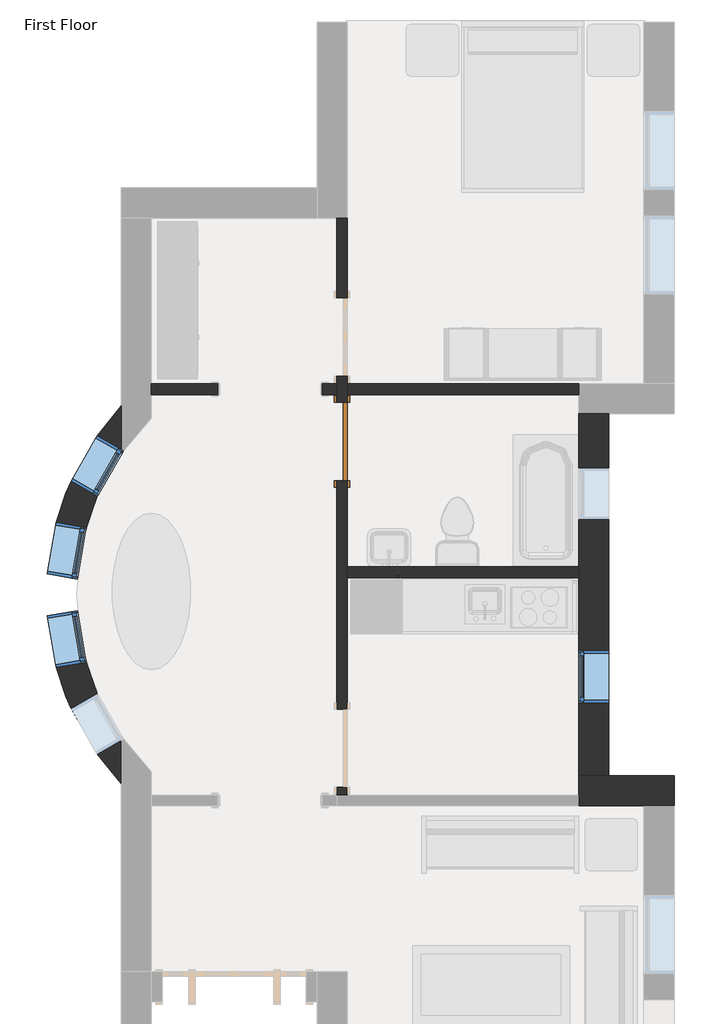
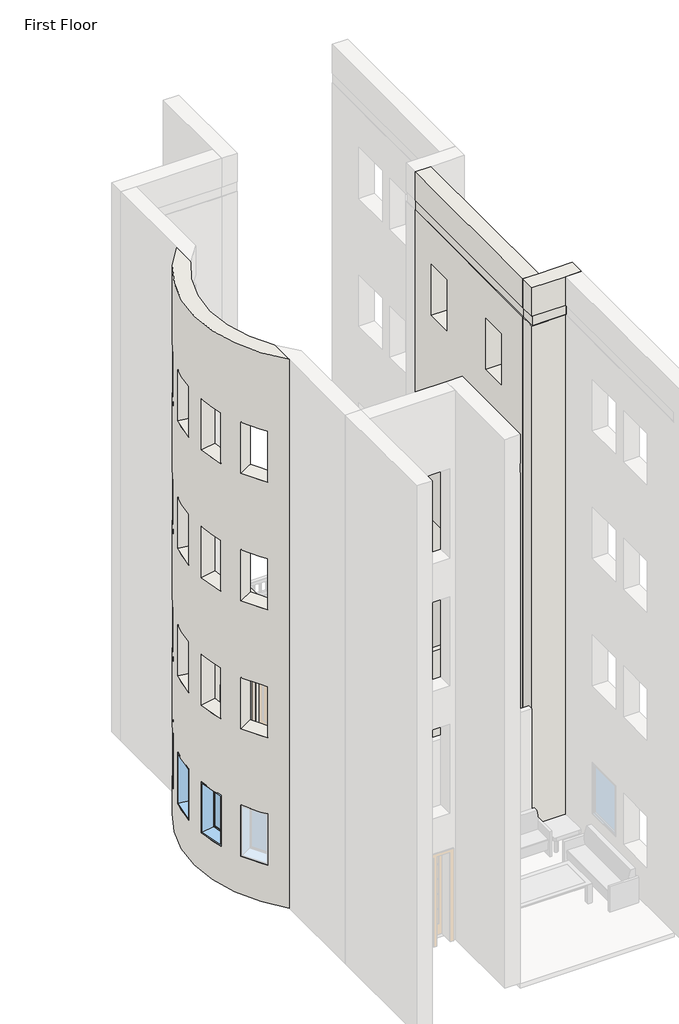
# One storey, part 7 of 24: 7 walls, 4 windows, 1 door.
"""IFC4 building model written with IfcOpenShell, lengths in millimetres."""

from ifc_helpers import new_model, si_unit, frame, origin, origin_with_axes, place, context, project, spatial, polyline, circle_curve, outline, extrude, faceted_brep, transform, mapped, element, save
from ifc_brep_helpers import plane_surface, cylinder_surface, revolved_surface, advanced_brep
from components import door_a3eb833a, window_60baf983, window_ed80354a

model = new_model("IFC4")

# Units and contexts
model_context = context("Model", 3, world=origin())
ifc_project = project(units=[si_unit("LENGTHUNIT", "METRE", prefix="MILLI")], contexts=[model_context])

# Site, building, storey
site = spatial("IfcSite", under=ifc_project)
building = spatial("IfcBuilding", under=site)
storey = spatial("IfcBuildingStorey", under=building, Name="First Floor", Elevation=0.0)

# Door
placement = place(None, origin())
door_shape = door_a3eb833a(model_context)
element("IfcDoor", 1, ObjectType="Single-Flush : 36\" x 84\"", at=placement, inside=storey, context=model_context, shape_type="MappedRepresentation", body=[
    mapped(door_shape, transform((-3773.4589563, -16873.0558133, 0.0), x_axis=(0.0, 1.0, 0.0), y_axis=(-1.0, 0.0, 0.0), z_axis=(0.0, 0.0, 1.0))),
])

# Walls
element("IfcWall", 2, ObjectType="Exterior - Brick on Mtl. Stud", at=placement, inside=storey, context=model_context, shape_type="Brep", body=[
    faceted_brep([(-1014.3839563, -16552.3808133, 0.0), (-1014.3839563, -18333.5558133, 0.0), (-1014.3839563, -18460.5558133, 0.0), (-1014.3839563, -20771.9558133, 0.0), (-1014.3839563, -20771.9558133, 12192.0), (-1014.3839563, -18460.5558133, 12192.0), (-1014.3839563, -18333.5558133, 12192.0), (-1014.3839563, -16552.3808133, 12192.0), (-1014.3839563, -17177.8558133, 7010.4), (-1014.3839563, -17177.8558133, 8229.6), (-1014.3839563, -17787.4558133, 8229.6), (-1014.3839563, -17787.4558133, 7010.4), (-1014.3839563, -19311.4558133, 7010.4), (-1014.3839563, -19311.4558133, 8229.6), (-1014.3839563, -19921.0558133, 8229.6), (-1014.3839563, -19921.0558133, 7010.4), (-1014.3839563, -17177.8558133, 3962.4), (-1014.3839563, -17177.8558133, 5181.6), (-1014.3839563, -17787.4558133, 5181.6), (-1014.3839563, -17787.4558133, 3962.4), (-1014.3839563, -19311.4558133, 3962.4), (-1014.3839563, -19311.4558133, 5181.6), (-1014.3839563, -19921.0558133, 5181.6), (-1014.3839563, -19921.0558133, 3962.4), (-1014.3839563, -17177.8558133, 10058.4), (-1014.3839563, -17177.8558133, 11277.6), (-1014.3839563, -17787.4558133, 11277.6), (-1014.3839563, -17787.4558133, 10058.4), (-1014.3839563, -19311.4558133, 10058.4), (-1014.3839563, -19311.4558133, 11277.6), (-1014.3839563, -19921.0558133, 11277.6), (-1014.3839563, -19921.0558133, 10058.4), (-1014.3839563, -17177.8558133, 914.4), (-1014.3839563, -17177.8558133, 2133.6), (-1014.3839563, -17787.4558133, 2133.6), (-1014.3839563, -17787.4558133, 914.4), (-1014.3839563, -19311.4558133, 914.4), (-1014.3839563, -19311.4558133, 2133.6), (-1014.3839563, -19921.0558133, 2133.6), (-1014.3839563, -19921.0558133, 914.4), (-1014.3839563, -20771.9558133, 13106.4), (-1014.3839563, -16552.3808133, 13106.4), (-1014.3839563, -16552.3808133, 12420.6), (-1014.3839563, -20771.9558133, 12420.6), (-661.9589563, -20771.9558133, 0.0), (-661.9589563, -16552.3808133, 0.0), (-661.9589563, -16552.3808133, 13106.4), (-661.9589563, -20771.9558133, 13106.4), (-661.9589563, -17177.8558133, 8229.6), (-661.9589563, -17177.8558133, 7010.4), (-661.9589563, -17787.4558133, 7010.4), (-661.9589563, -17787.4558133, 8229.6), (-661.9589563, -19311.4558133, 8229.6), (-661.9589563, -19311.4558133, 7010.4), (-661.9589563, -19921.0558133, 7010.4), (-661.9589563, -19921.0558133, 8229.6), (-661.9589563, -17177.8558133, 5181.6), (-661.9589563, -17177.8558133, 3962.4), (-661.9589563, -17787.4558133, 3962.4), (-661.9589563, -17787.4558133, 5181.6), (-661.9589563, -19311.4558133, 5181.6), (-661.9589563, -19311.4558133, 3962.4), (-661.9589563, -19921.0558133, 3962.4), (-661.9589563, -19921.0558133, 5181.6), (-661.9589563, -17177.8558133, 11277.6), (-661.9589563, -17177.8558133, 10058.4), (-661.9589563, -17787.4558133, 10058.4), (-661.9589563, -17787.4558133, 11277.6), (-661.9589563, -19311.4558133, 11277.6), (-661.9589563, -19311.4558133, 10058.4), (-661.9589563, -19921.0558133, 10058.4), (-661.9589563, -19921.0558133, 11277.6), (-661.9589563, -17177.8558133, 2133.6), (-661.9589563, -17177.8558133, 914.4), (-661.9589563, -17787.4558133, 914.4), (-661.9589563, -17787.4558133, 2133.6), (-661.9589563, -19311.4558133, 2133.6), (-661.9589563, -19311.4558133, 914.4), (-661.9589563, -19921.0558133, 914.4), (-661.9589563, -19921.0558133, 2133.6), (-1001.6839563, -16552.3808133, 12192.0), (-1001.6839563, -16552.3808133, 12420.6), (-1001.6839563, -20771.9558133, 12420.6), (-1001.6839563, -20771.9558133, 12192.0)], [[[0, 1, 2, 3, 4, 5, 6, 7], [8, 9, 10, 11], [12, 13, 14, 15], [16, 17, 18, 19], [20, 21, 22, 23], [24, 25, 26, 27], [28, 29, 30, 31], [32, 33, 34, 35], [36, 37, 38, 39]], [[40, 41, 42, 43]], [[44, 45, 46, 47], [48, 49, 50, 51], [52, 53, 54, 55], [56, 57, 58, 59], [60, 61, 62, 63], [64, 65, 66, 67], [68, 69, 70, 71], [72, 73, 74, 75], [76, 77, 78, 79]], [[3, 2, 1, 0, 45, 44]], [[41, 40, 47, 46]], [[41, 46, 45, 0, 7, 80, 81, 42]], [[3, 44, 47, 40, 43, 82, 83, 4]], [[49, 48, 9, 8]], [[50, 49, 8, 11]], [[51, 50, 11, 10]], [[48, 51, 10, 9]], [[53, 52, 13, 12]], [[54, 53, 12, 15]], [[55, 54, 15, 14]], [[52, 55, 14, 13]], [[57, 56, 17, 16]], [[58, 57, 16, 19]], [[59, 58, 19, 18]], [[56, 59, 18, 17]], [[61, 60, 21, 20]], [[62, 61, 20, 23]], [[63, 62, 23, 22]], [[60, 63, 22, 21]], [[65, 64, 25, 24]], [[66, 65, 24, 27]], [[67, 66, 27, 26]], [[64, 67, 26, 25]], [[69, 68, 29, 28]], [[70, 69, 28, 31]], [[71, 70, 31, 30]], [[68, 71, 30, 29]], [[73, 72, 33, 32]], [[74, 73, 32, 35]], [[75, 74, 35, 34]], [[72, 75, 34, 33]], [[77, 76, 37, 36]], [[78, 77, 36, 39]], [[79, 78, 39, 38]], [[76, 79, 38, 37]], [[83, 80, 7, 6, 5, 4]], [[81, 82, 43, 42]], [[80, 83, 82, 81]]]),
])
element("IfcWall", 3, ObjectType="Exterior - Brick on Mtl. Stud", at=placement, inside=storey, context=model_context, shape_type="Brep", body=[
    faceted_brep([(-1014.3839563, -21124.3808133, 0.0), (-252.3839563, -21124.3808133, 0.0), (100.0410437, -21124.3808133, 0.0), (100.0410437, -21124.3808133, 13106.4), (-252.3839563, -21124.3808133, 13106.4), (-1014.3839563, -21124.3808133, 13106.4), (-1014.3839563, -21124.3808133, 12420.6), (-252.3839563, -21124.3808133, 12420.6), (-239.6839563, -21124.3808133, 12420.6), (-239.6839563, -21124.3808133, 12192.0), (-252.3839563, -21124.3808133, 12192.0), (-1014.3839563, -21124.3808133, 12192.0), (-1014.3839563, -21124.3808133, 9144.0), (-1014.3839563, -21124.3808133, 6096.0), (-1014.3839563, -21124.3808133, 3048.0), (100.0410437, -20771.9558133, 0.0), (-661.9589563, -20771.9558133, 0.0), (-1014.3839563, -20771.9558133, 0.0), (-1014.3839563, -20771.9558133, 12192.0), (-1001.6839563, -20771.9558133, 12192.0), (-1001.6839563, -20771.9558133, 12420.6), (-1014.3839563, -20771.9558133, 12420.6), (-1014.3839563, -20771.9558133, 13106.4), (-661.9589563, -20771.9558133, 13106.4), (100.0410437, -20771.9558133, 13106.4), (-1014.3839563, -20997.3808133, 0.0), (-1014.3839563, -20997.3808133, 12192.0), (-239.6839563, -21111.6808133, 12192.0), (-1001.6839563, -21111.6808133, 12192.0), (-1001.6839563, -21111.6808133, 12420.6), (-239.6839563, -21111.6808133, 12420.6)], [[[0, 1, 2, 3, 4, 5, 6, 7, 8, 9, 10, 11, 12, 13, 14]], [[15, 16, 17, 18, 19, 20, 21, 22, 23, 24]], [[2, 1, 0, 25, 17, 16, 15]], [[5, 4, 3, 24, 23, 22]], [[17, 25, 0, 14, 13, 12, 11, 26, 18]], [[5, 22, 21, 6]], [[3, 2, 15, 24]], [[27, 28, 19, 18, 26, 11, 10, 9]], [[29, 30, 8, 7, 6, 21, 20]], [[28, 29, 20, 19]], [[28, 27, 30, 29]], [[30, 27, 9, 8]]]),
])
element("IfcWall", 4, ObjectType="Exterior - Brick on Mtl. Stud", at=placement, inside=storey, context=model_context, shape_type="AdvancedBrep", body=[
    advanced_brep(
    [(-6348.3839563, -20308.6589631, 13106.4), (-6348.3839563, -17015.6776635, 13106.4), (-6348.3839563, -16457.7830793, 13106.4), (-6348.3839563, -20866.5535473, 13106.4), (-6348.3839563, -17015.6776635, 0.0), (-6348.3839563, -20308.6589631, 0.0), (-6348.3839563, -20866.5535473, 0.0), (-6348.3839563, -16457.7830793, 0.0), (-6348.3839563, -20308.6589631, 12420.6), (-6348.3839563, -17015.6776635, 12420.6), (-6348.3839563, -17015.6776635, 914.4), (-6625.944107, -17509.893074, 914.4), (-6625.944107, -17509.893074, 2133.6), (-6348.3839563, -17015.6776635, 2133.6), (-6348.3839563, -17015.6776635, 3962.4), (-6625.944107, -17509.893074, 3962.4), (-6625.944107, -17509.893074, 5181.6), (-6348.3839563, -17015.6776635, 5181.6), (-6348.3839563, -17015.6776635, 7010.4), (-6625.944107, -17509.893074, 7010.4), (-6625.944107, -17509.893074, 8229.6), (-6348.3839563, -17015.6776635, 8229.6), (-6348.3839563, -17015.6776635, 10058.4), (-6625.944107, -17509.893074, 10058.4), (-6625.944107, -17509.893074, 11277.6), (-6348.3839563, -17015.6776635, 11277.6), (-6348.3839563, -17015.6776635, 12192.0), (-6348.3839563, -20308.6589631, 12192.0), (-6348.3839563, -20308.6589631, 11277.6), (-6625.944107, -19814.4435526, 11277.6), (-6625.944107, -19814.4435526, 10058.4), (-6348.3839563, -20308.6589631, 10058.4), (-6348.3839563, -20308.6589631, 8229.6), (-6625.944107, -19814.4435526, 8229.6), (-6625.944107, -19814.4435526, 7010.4), (-6348.3839563, -20308.6589631, 7010.4), (-6348.3839563, -20308.6589631, 5181.6), (-6625.944107, -19814.4435526, 5181.6), (-6625.944107, -19814.4435526, 3962.4), (-6348.3839563, -20308.6589631, 3962.4), (-6348.3839563, -20308.6589631, 2133.6), (-6625.944107, -19814.4435526, 2133.6), (-6625.944107, -19814.4435526, 914.4), (-6348.3839563, -20308.6589631, 914.4), (-6861.33136, -18846.4727595, 8229.6), (-6861.33136, -18846.4727595, 7010.4), (-6757.862554, -19447.2275899, 7010.4), (-6757.862554, -19447.2275899, 8229.6), (-6861.33136, -18477.8638671, 7010.4), (-6861.33136, -18477.8638671, 8229.6), (-6757.862554, -17877.1090368, 8229.6), (-6757.862554, -17877.1090368, 7010.4), (-6861.33136, -18846.4727595, 5181.6), (-6861.33136, -18846.4727595, 3962.4), (-6757.862554, -19447.2275899, 3962.4), (-6757.862554, -19447.2275899, 5181.6), (-6861.33136, -18477.8638671, 3962.4), (-6861.33136, -18477.8638671, 5181.6), (-6757.862554, -17877.1090368, 5181.6), (-6757.862554, -17877.1090368, 3962.4), (-6861.33136, -18846.4727595, 11277.6), (-6861.33136, -18846.4727595, 10058.4), (-6757.862554, -19447.2275899, 10058.4), (-6757.862554, -19447.2275899, 11277.6), (-6861.33136, -18477.8638671, 10058.4), (-6861.33136, -18477.8638671, 11277.6), (-6757.862554, -17877.1090368, 11277.6), (-6757.862554, -17877.1090368, 10058.4), (-6861.33136, -18846.4727595, 2133.6), (-6861.33136, -18846.4727595, 914.4), (-6757.862554, -19447.2275899, 914.4), (-6757.862554, -19447.2275899, 2133.6), (-6861.33136, -18477.8638671, 914.4), (-6861.33136, -18477.8638671, 2133.6), (-6757.862554, -17877.1090368, 2133.6), (-6757.862554, -17877.1090368, 914.4), (-6933.4709271, -17334.1389611, 2133.6), (-6933.4709271, -17334.1389611, 914.4), (-6630.9928429, -16804.8761071, 914.4), (-6630.9928429, -16804.8761071, 2133.6), (-6933.4709271, -19990.1976656, 914.4), (-6933.4709271, -19990.1976656, 2133.6), (-6630.9928429, -20519.4605195, 2133.6), (-6630.9928429, -20519.4605195, 914.4), (-6933.4709271, -17334.1389611, 11277.6), (-6933.4709271, -17334.1389611, 10058.4), (-6630.9928429, -16804.8761071, 10058.4), (-6630.9928429, -16804.8761071, 11277.6), (-6933.4709271, -19990.1976656, 10058.4), (-6933.4709271, -19990.1976656, 11277.6), (-6630.9928429, -20519.4605195, 11277.6), (-6630.9928429, -20519.4605195, 10058.4), (-6933.4709271, -17334.1389611, 5181.6), (-6933.4709271, -17334.1389611, 3962.4), (-6630.9928429, -16804.8761071, 3962.4), (-6630.9928429, -16804.8761071, 5181.6), (-6933.4709271, -19990.1976656, 3962.4), (-6933.4709271, -19990.1976656, 5181.6), (-6630.9928429, -20519.4605195, 5181.6), (-6630.9928429, -20519.4605195, 3962.4), (-6933.4709271, -17334.1389611, 8229.6), (-6933.4709271, -17334.1389611, 7010.4), (-6630.9928429, -16804.8761071, 7010.4), (-6630.9928429, -16804.8761071, 8229.6), (-6933.4709271, -19990.1976656, 7010.4), (-6933.4709271, -19990.1976656, 8229.6), (-6630.9928429, -20519.4605195, 8229.6), (-6630.9928429, -20519.4605195, 7010.4), (-7210.3984091, -18906.5930431, 7010.4), (-7210.3984091, -18906.5930431, 8229.6), (-7106.9296032, -19507.3478734, 8229.6), (-7106.9296032, -19507.3478734, 7010.4), (-7210.3984091, -18417.7435836, 8229.6), (-7210.3984091, -18417.7435836, 7010.4), (-7106.9296032, -17816.9887532, 7010.4), (-7106.9296032, -17816.9887532, 8229.6), (-7210.3984091, -18906.5930431, 3962.4), (-7210.3984091, -18906.5930431, 5181.6), (-7106.9296032, -19507.3478734, 5181.6), (-7106.9296032, -19507.3478734, 3962.4), (-7210.3984091, -18417.7435836, 5181.6), (-7210.3984091, -18417.7435836, 3962.4), (-7106.9296032, -17816.9887532, 3962.4), (-7106.9296032, -17816.9887532, 5181.6), (-7210.3984091, -18906.5930431, 10058.4), (-7210.3984091, -18906.5930431, 11277.6), (-7106.9296032, -19507.3478734, 11277.6), (-7106.9296032, -19507.3478734, 10058.4), (-7210.3984091, -18417.7435836, 11277.6), (-7210.3984091, -18417.7435836, 10058.4), (-7106.9296032, -17816.9887532, 10058.4), (-7106.9296032, -17816.9887532, 11277.6), (-7210.3984091, -18906.5930431, 914.4), (-7210.3984091, -18906.5930431, 2133.6), (-7106.9296032, -19507.3478734, 2133.6), (-7106.9296032, -19507.3478734, 914.4), (-7210.3984091, -18417.7435836, 2133.6), (-7210.3984091, -18417.7435836, 914.4), (-7106.9296032, -17816.9887532, 914.4), (-7106.9296032, -17816.9887532, 2133.6), (-6348.3839563, -20357.947211, 914.4), (-6348.3839563, -20357.947211, 2133.6), (-6348.3839563, -20357.947211, 3962.4), (-6348.3839563, -20357.947211, 5181.6), (-6348.3839563, -20357.947211, 7010.4), (-6348.3839563, -20357.947211, 8229.6), (-6348.3839563, -20357.947211, 10058.4), (-6348.3839563, -20357.947211, 11277.6), (-6348.3839563, -20617.1458841, 12192.0), (-6348.3839563, -20617.1458841, 12420.6), (-6348.3839563, -16707.1907425, 12420.6), (-6348.3839563, -16707.1907425, 12192.0), (-6348.3839563, -16966.3894156, 11277.6), (-6348.3839563, -16966.3894156, 10058.4), (-6348.3839563, -16966.3894156, 8229.6), (-6348.3839563, -16966.3894156, 7010.4), (-6348.3839563, -16966.3894156, 5181.6), (-6348.3839563, -16966.3894156, 3962.4), (-6348.3839563, -16966.3894156, 2133.6), (-6348.3839563, -16966.3894156, 914.4)],
    [
        (0, 1, circle_curve(frame((-3995.4640713, -18662.1683133, 13106.4), z_axis=(0.0, 0.0, -1.0), x_axis=(0.0, -1.0, 0.0)), 2871.7875)),
        (1, 2),
        (2, 3, circle_curve(frame((-3995.4640713, -18662.1683133, 13106.4), z_axis=(0.0, 0.0, 1.0), x_axis=(0.0, -1.0, 0.0)), 3224.2125)),
        (3, 0),
        (4, 5, circle_curve(frame((-3995.4640713, -18662.1683133, 0.0), z_axis=(0.0, 0.0, 1.0), x_axis=(0.0, -1.0, 0.0)), 2871.7875)),
        (5, 6),
        (6, 7, circle_curve(frame((-3995.4640713, -18662.1683133, 0.0), z_axis=(0.0, 0.0, -1.0), x_axis=(0.0, -1.0, 0.0)), 3224.2125)),
        (7, 4),
        (0, 8),
        (8, 9, circle_curve(frame((-3995.4640713, -18662.1683133, 12420.6), z_axis=(0.0, 0.0, -1.0), x_axis=(0.0, -1.0, 0.0)), 2871.7875)),
        (9, 1),
        (4, 10),
        (10, 11, circle_curve(frame((-3995.4640713, -18662.1683133, 914.4), z_axis=(0.0, 0.0, 1.0), x_axis=(0.0, -1.0, 0.0)), 2871.7875)),
        (11, 12),
        (12, 13, circle_curve(frame((-3995.4640713, -18662.1683133, 2133.6), z_axis=(0.0, 0.0, -1.0), x_axis=(0.0, -1.0, 0.0)), 2871.7875)),
        (13, 14),
        (14, 15, circle_curve(frame((-3995.4640713, -18662.1683133, 3962.4), z_axis=(0.0, 0.0, 1.0), x_axis=(0.0, -1.0, 0.0)), 2871.7875)),
        (15, 16),
        (16, 17, circle_curve(frame((-3995.4640713, -18662.1683133, 5181.6), z_axis=(0.0, 0.0, -1.0), x_axis=(0.0, -1.0, 0.0)), 2871.7875)),
        (17, 18),
        (18, 19, circle_curve(frame((-3995.4640713, -18662.1683133, 7010.4), z_axis=(0.0, 0.0, 1.0), x_axis=(0.0, -1.0, 0.0)), 2871.7875)),
        (19, 20),
        (20, 21, circle_curve(frame((-3995.4640713, -18662.1683133, 8229.6), z_axis=(0.0, 0.0, -1.0), x_axis=(0.0, -1.0, 0.0)), 2871.7875)),
        (21, 22),
        (22, 23, circle_curve(frame((-3995.4640713, -18662.1683133, 10058.4), z_axis=(0.0, 0.0, 1.0), x_axis=(0.0, -1.0, 0.0)), 2871.7875)),
        (23, 24),
        (24, 25, circle_curve(frame((-3995.4640713, -18662.1683133, 11277.6), z_axis=(0.0, 0.0, -1.0), x_axis=(0.0, -1.0, 0.0)), 2871.7875)),
        (25, 26),
        (26, 27, circle_curve(frame((-3995.4640713, -18662.1683133, 12192.0), z_axis=(0.0, 0.0, 1.0), x_axis=(0.0, -1.0, 0.0)), 2871.7875)),
        (27, 28),
        (28, 29, circle_curve(frame((-3995.4640713, -18662.1683133, 11277.6), z_axis=(0.0, 0.0, -1.0), x_axis=(0.0, -1.0, 0.0)), 2871.7875)),
        (29, 30),
        (30, 31, circle_curve(frame((-3995.4640713, -18662.1683133, 10058.4), z_axis=(0.0, 0.0, 1.0), x_axis=(0.0, -1.0, 0.0)), 2871.7875)),
        (31, 32),
        (32, 33, circle_curve(frame((-3995.4640713, -18662.1683133, 8229.6), z_axis=(0.0, 0.0, -1.0), x_axis=(0.0, -1.0, 0.0)), 2871.7875)),
        (33, 34),
        (34, 35, circle_curve(frame((-3995.4640713, -18662.1683133, 7010.4), z_axis=(0.0, 0.0, 1.0), x_axis=(0.0, -1.0, 0.0)), 2871.7875)),
        (35, 36),
        (36, 37, circle_curve(frame((-3995.4640713, -18662.1683133, 5181.6), z_axis=(0.0, 0.0, -1.0), x_axis=(0.0, -1.0, 0.0)), 2871.7875)),
        (37, 38),
        (38, 39, circle_curve(frame((-3995.4640713, -18662.1683133, 3962.4), z_axis=(0.0, 0.0, 1.0), x_axis=(0.0, -1.0, 0.0)), 2871.7875)),
        (39, 40),
        (40, 41, circle_curve(frame((-3995.4640713, -18662.1683133, 2133.6), z_axis=(0.0, 0.0, -1.0), x_axis=(0.0, -1.0, 0.0)), 2871.7875)),
        (41, 42),
        (42, 43, circle_curve(frame((-3995.4640713, -18662.1683133, 914.4), z_axis=(0.0, 0.0, 1.0), x_axis=(0.0, -1.0, 0.0)), 2871.7875)),
        (43, 5),
        (44, 45),
        (45, 46, circle_curve(frame((-3995.4640713, -18662.1683133, 7010.4), z_axis=(0.0, 0.0, 1.0), x_axis=(0.0, -1.0, 0.0)), 2871.7875)),
        (46, 47),
        (47, 44, circle_curve(frame((-3995.4640713, -18662.1683133, 8229.6), z_axis=(0.0, 0.0, -1.0), x_axis=(0.0, -1.0, 0.0)), 2871.7875)),
        (48, 49),
        (49, 50, circle_curve(frame((-3995.4640713, -18662.1683133, 8229.6), z_axis=(0.0, 0.0, -1.0), x_axis=(0.0, -1.0, 0.0)), 2871.7875)),
        (50, 51),
        (51, 48, circle_curve(frame((-3995.4640713, -18662.1683133, 7010.4), z_axis=(0.0, 0.0, 1.0), x_axis=(0.0, -1.0, 0.0)), 2871.7875)),
        (52, 53),
        (53, 54, circle_curve(frame((-3995.4640713, -18662.1683133, 3962.4), z_axis=(0.0, 0.0, 1.0), x_axis=(0.0, -1.0, 0.0)), 2871.7875)),
        (54, 55),
        (55, 52, circle_curve(frame((-3995.4640713, -18662.1683133, 5181.6), z_axis=(0.0, 0.0, -1.0), x_axis=(0.0, -1.0, 0.0)), 2871.7875)),
        (56, 57),
        (57, 58, circle_curve(frame((-3995.4640713, -18662.1683133, 5181.6), z_axis=(0.0, 0.0, -1.0), x_axis=(0.0, -1.0, 0.0)), 2871.7875)),
        (58, 59),
        (59, 56, circle_curve(frame((-3995.4640713, -18662.1683133, 3962.4), z_axis=(0.0, 0.0, 1.0), x_axis=(0.0, -1.0, 0.0)), 2871.7875)),
        (60, 61),
        (61, 62, circle_curve(frame((-3995.4640713, -18662.1683133, 10058.4), z_axis=(0.0, 0.0, 1.0), x_axis=(0.0, -1.0, 0.0)), 2871.7875)),
        (62, 63),
        (63, 60, circle_curve(frame((-3995.4640713, -18662.1683133, 11277.6), z_axis=(0.0, 0.0, -1.0), x_axis=(0.0, -1.0, 0.0)), 2871.7875)),
        (64, 65),
        (65, 66, circle_curve(frame((-3995.4640713, -18662.1683133, 11277.6), z_axis=(0.0, 0.0, -1.0), x_axis=(0.0, -1.0, 0.0)), 2871.7875)),
        (66, 67),
        (67, 64, circle_curve(frame((-3995.4640713, -18662.1683133, 10058.4), z_axis=(0.0, 0.0, 1.0), x_axis=(0.0, -1.0, 0.0)), 2871.7875)),
        (68, 69),
        (69, 70, circle_curve(frame((-3995.4640713, -18662.1683133, 914.4), z_axis=(0.0, 0.0, 1.0), x_axis=(0.0, -1.0, 0.0)), 2871.7875)),
        (70, 71),
        (71, 68, circle_curve(frame((-3995.4640713, -18662.1683133, 2133.6), z_axis=(0.0, 0.0, -1.0), x_axis=(0.0, -1.0, 0.0)), 2871.7875)),
        (72, 73),
        (73, 74, circle_curve(frame((-3995.4640713, -18662.1683133, 2133.6), z_axis=(0.0, 0.0, -1.0), x_axis=(0.0, -1.0, 0.0)), 2871.7875)),
        (74, 75),
        (75, 72, circle_curve(frame((-3995.4640713, -18662.1683133, 914.4), z_axis=(0.0, 0.0, 1.0), x_axis=(0.0, -1.0, 0.0)), 2871.7875)),
        (2, 7),
        (6, 3),
        (76, 77),
        (77, 78, circle_curve(frame((-3995.4640713, -18662.1683133, 914.4), z_axis=(0.0, 0.0, -1.0), x_axis=(0.0, -1.0, 0.0)), 3224.2125)),
        (78, 79),
        (79, 76, circle_curve(frame((-3995.4640713, -18662.1683133, 2133.6), z_axis=(0.0, 0.0, 1.0), x_axis=(0.0, -1.0, 0.0)), 3224.2125)),
        (80, 81),
        (81, 82, circle_curve(frame((-3995.4640713, -18662.1683133, 2133.6), z_axis=(0.0, 0.0, 1.0), x_axis=(0.0, -1.0, 0.0)), 3224.2125)),
        (82, 83),
        (83, 80, circle_curve(frame((-3995.4640713, -18662.1683133, 914.4), z_axis=(0.0, 0.0, -1.0), x_axis=(0.0, -1.0, 0.0)), 3224.2125)),
        (84, 85),
        (85, 86, circle_curve(frame((-3995.4640713, -18662.1683133, 10058.4), z_axis=(0.0, 0.0, -1.0), x_axis=(0.0, -1.0, 0.0)), 3224.2125)),
        (86, 87),
        (87, 84, circle_curve(frame((-3995.4640713, -18662.1683133, 11277.6), z_axis=(0.0, 0.0, 1.0), x_axis=(0.0, -1.0, 0.0)), 3224.2125)),
        (88, 89),
        (89, 90, circle_curve(frame((-3995.4640713, -18662.1683133, 11277.6), z_axis=(0.0, 0.0, 1.0), x_axis=(0.0, -1.0, 0.0)), 3224.2125)),
        (90, 91),
        (91, 88, circle_curve(frame((-3995.4640713, -18662.1683133, 10058.4), z_axis=(0.0, 0.0, -1.0), x_axis=(0.0, -1.0, 0.0)), 3224.2125)),
        (92, 93),
        (93, 94, circle_curve(frame((-3995.4640713, -18662.1683133, 3962.4), z_axis=(0.0, 0.0, -1.0), x_axis=(0.0, -1.0, 0.0)), 3224.2125)),
        (94, 95),
        (95, 92, circle_curve(frame((-3995.4640713, -18662.1683133, 5181.6), z_axis=(0.0, 0.0, 1.0), x_axis=(0.0, -1.0, 0.0)), 3224.2125)),
        (96, 97),
        (97, 98, circle_curve(frame((-3995.4640713, -18662.1683133, 5181.6), z_axis=(0.0, 0.0, 1.0), x_axis=(0.0, -1.0, 0.0)), 3224.2125)),
        (98, 99),
        (99, 96, circle_curve(frame((-3995.4640713, -18662.1683133, 3962.4), z_axis=(0.0, 0.0, -1.0), x_axis=(0.0, -1.0, 0.0)), 3224.2125)),
        (100, 101),
        (101, 102, circle_curve(frame((-3995.4640713, -18662.1683133, 7010.4), z_axis=(0.0, 0.0, -1.0), x_axis=(0.0, -1.0, 0.0)), 3224.2125)),
        (102, 103),
        (103, 100, circle_curve(frame((-3995.4640713, -18662.1683133, 8229.6), z_axis=(0.0, 0.0, 1.0), x_axis=(0.0, -1.0, 0.0)), 3224.2125)),
        (104, 105),
        (105, 106, circle_curve(frame((-3995.4640713, -18662.1683133, 8229.6), z_axis=(0.0, 0.0, 1.0), x_axis=(0.0, -1.0, 0.0)), 3224.2125)),
        (106, 107),
        (107, 104, circle_curve(frame((-3995.4640713, -18662.1683133, 7010.4), z_axis=(0.0, 0.0, -1.0), x_axis=(0.0, -1.0, 0.0)), 3224.2125)),
        (108, 109),
        (109, 110, circle_curve(frame((-3995.4640713, -18662.1683133, 8229.6), z_axis=(0.0, 0.0, 1.0), x_axis=(0.0, -1.0, 0.0)), 3224.2125)),
        (110, 111),
        (111, 108, circle_curve(frame((-3995.4640713, -18662.1683133, 7010.4), z_axis=(0.0, 0.0, -1.0), x_axis=(0.0, -1.0, 0.0)), 3224.2125)),
        (112, 113),
        (113, 114, circle_curve(frame((-3995.4640713, -18662.1683133, 7010.4), z_axis=(0.0, 0.0, -1.0), x_axis=(0.0, -1.0, 0.0)), 3224.2125)),
        (114, 115),
        (115, 112, circle_curve(frame((-3995.4640713, -18662.1683133, 8229.6), z_axis=(0.0, 0.0, 1.0), x_axis=(0.0, -1.0, 0.0)), 3224.2125)),
        (116, 117),
        (117, 118, circle_curve(frame((-3995.4640713, -18662.1683133, 5181.6), z_axis=(0.0, 0.0, 1.0), x_axis=(0.0, -1.0, 0.0)), 3224.2125)),
        (118, 119),
        (119, 116, circle_curve(frame((-3995.4640713, -18662.1683133, 3962.4), z_axis=(0.0, 0.0, -1.0), x_axis=(0.0, -1.0, 0.0)), 3224.2125)),
        (120, 121),
        (121, 122, circle_curve(frame((-3995.4640713, -18662.1683133, 3962.4), z_axis=(0.0, 0.0, -1.0), x_axis=(0.0, -1.0, 0.0)), 3224.2125)),
        (122, 123),
        (123, 120, circle_curve(frame((-3995.4640713, -18662.1683133, 5181.6), z_axis=(0.0, 0.0, 1.0), x_axis=(0.0, -1.0, 0.0)), 3224.2125)),
        (124, 125),
        (125, 126, circle_curve(frame((-3995.4640713, -18662.1683133, 11277.6), z_axis=(0.0, 0.0, 1.0), x_axis=(0.0, -1.0, 0.0)), 3224.2125)),
        (126, 127),
        (127, 124, circle_curve(frame((-3995.4640713, -18662.1683133, 10058.4), z_axis=(0.0, 0.0, -1.0), x_axis=(0.0, -1.0, 0.0)), 3224.2125)),
        (128, 129),
        (129, 130, circle_curve(frame((-3995.4640713, -18662.1683133, 10058.4), z_axis=(0.0, 0.0, -1.0), x_axis=(0.0, -1.0, 0.0)), 3224.2125)),
        (130, 131),
        (131, 128, circle_curve(frame((-3995.4640713, -18662.1683133, 11277.6), z_axis=(0.0, 0.0, 1.0), x_axis=(0.0, -1.0, 0.0)), 3224.2125)),
        (132, 133),
        (133, 134, circle_curve(frame((-3995.4640713, -18662.1683133, 2133.6), z_axis=(0.0, 0.0, 1.0), x_axis=(0.0, -1.0, 0.0)), 3224.2125)),
        (134, 135),
        (135, 132, circle_curve(frame((-3995.4640713, -18662.1683133, 914.4), z_axis=(0.0, 0.0, -1.0), x_axis=(0.0, -1.0, 0.0)), 3224.2125)),
        (136, 137),
        (137, 138, circle_curve(frame((-3995.4640713, -18662.1683133, 914.4), z_axis=(0.0, 0.0, -1.0), x_axis=(0.0, -1.0, 0.0)), 3224.2125)),
        (138, 139),
        (139, 136, circle_curve(frame((-3995.4640713, -18662.1683133, 2133.6), z_axis=(0.0, 0.0, 1.0), x_axis=(0.0, -1.0, 0.0)), 3224.2125)),
        (43, 140),
        (140, 141),
        (141, 40),
        (39, 142),
        (142, 143),
        (143, 36),
        (35, 144),
        (144, 145),
        (145, 32),
        (31, 146),
        (146, 147),
        (147, 28),
        (27, 148),
        (148, 149),
        (149, 8),
        (9, 150),
        (150, 151),
        (151, 26),
        (25, 152),
        (152, 153),
        (153, 22),
        (21, 154),
        (154, 155),
        (155, 18),
        (17, 156),
        (156, 157),
        (157, 14),
        (13, 158),
        (158, 159),
        (159, 10),
        (76, 12),
        (11, 77),
        (159, 78),
        (158, 79),
        (41, 81),
        (80, 42),
        (83, 140),
        (82, 141),
        (84, 24),
        (23, 85),
        (153, 86),
        (152, 87),
        (29, 89),
        (88, 30),
        (91, 146),
        (90, 147),
        (92, 16),
        (15, 93),
        (157, 94),
        (156, 95),
        (37, 97),
        (96, 38),
        (99, 142),
        (98, 143),
        (100, 20),
        (19, 101),
        (155, 102),
        (154, 103),
        (33, 105),
        (104, 34),
        (107, 144),
        (106, 145),
        (44, 109),
        (108, 45),
        (111, 46),
        (110, 47),
        (112, 49),
        (48, 113),
        (51, 114),
        (50, 115),
        (52, 117),
        (116, 53),
        (119, 54),
        (118, 55),
        (120, 57),
        (56, 121),
        (59, 122),
        (58, 123),
        (60, 125),
        (124, 61),
        (127, 62),
        (126, 63),
        (128, 65),
        (64, 129),
        (67, 130),
        (66, 131),
        (68, 133),
        (132, 69),
        (135, 70),
        (134, 71),
        (136, 73),
        (72, 137),
        (75, 138),
        (74, 139),
        (151, 148, circle_curve(frame((-3995.4640713, -18662.1683133, 12192.0), z_axis=(0.0, 0.0, 1.0), x_axis=(0.0, -1.0, 0.0)), 3059.1125)),
        (149, 150, circle_curve(frame((-3995.4640713, -18662.1683133, 12420.6), z_axis=(0.0, 0.0, -1.0), x_axis=(0.0, -1.0, 0.0)), 3059.1125)),
    ],
    [
        plane_surface(frame((-3995.4640713, -21533.9558133, 13106.4), z_axis=(0.0, 0.0, 1.0), x_axis=(-1.0, 0.0, 0.0))),
        plane_surface(frame((-3995.4640713, -21533.9558133, 0.0), z_axis=(0.0, 0.0, -1.0), x_axis=(1.0, 0.0, 0.0))),
        revolved_surface(polyline([(-3995.4640713, -21533.9558133, 12420.6), (-3995.4640713, -21533.9558133, 13106.4)]), (-3995.4640713, -18662.1683133, 0.0), (0.0, 0.0, -1.0)),
        revolved_surface(polyline([(-3995.4640713, -21533.9558133, 0.0), (-3995.4640713, -21533.9558133, 12192.0)]), (-3995.4640713, -18662.1683133, 0.0), (0.0, 0.0, -1.0)),
        cylinder_surface(frame((-3995.4640713, -18662.1683133, 0.0), z_axis=(0.0, 0.0, 1.0), x_axis=(0.0, -1.0, 0.0)), 3224.2125),
        plane_surface(frame((-6348.3839563, -23234.1683133, 0.0), z_axis=(1.0, 0.0, 0.0), x_axis=(0.0, -1.0, 0.0))),
        plane_surface(frame((-6348.3839563, -14090.1683133, 0.0), z_axis=(1.0, 0.0, 0.0), x_axis=(0.0, -1.0, 0.0))),
        plane_surface(frame((-5608.7670595, -18091.2181421, 2133.6), z_axis=(0.49619108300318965, 0.8682133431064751, 0.0), x_axis=(-0.8682133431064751, 0.49619108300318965, 0.0))),
        plane_surface(frame((-5608.7670595, -18091.2181421, 914.4), z_axis=(0.0, 0.0, 1.0000000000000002), x_axis=(-0.8682133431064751, 0.49619108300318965, 0.0))),
        plane_surface(frame((-5306.2889753, -17561.9552881, 914.4), z_axis=(-0.49619108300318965, -0.8682133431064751, 0.0), x_axis=(-0.8682133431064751, 0.49619108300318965, 0.0))),
        plane_surface(frame((-5306.2889753, -17561.9552881, 2133.6), z_axis=(0.0, 0.0, -1.0000000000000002), x_axis=(-0.8682133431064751, 0.49619108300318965, 0.0))),
        plane_surface(frame((-8255.0813293, -20745.5089056, 2133.6), z_axis=(0.49619108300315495, -0.8682133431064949, 0.0), x_axis=(0.8682133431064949, 0.49619108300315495, 0.0))),
        plane_surface(frame((-8255.0813293, -20745.5089056, 914.4), z_axis=(0.0, 0.0, 1.0), x_axis=(0.8682133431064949, 0.49619108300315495, 0.0))),
        plane_surface(frame((-7952.6032451, -21274.7717595, 914.4), z_axis=(-0.4961910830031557, 0.8682133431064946, 0.0), x_axis=(0.8682133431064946, 0.4961910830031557, 0.0))),
        plane_surface(frame((-7952.6032451, -21274.7717595, 2133.6), z_axis=(0.0, 0.0, -1.0000000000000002), x_axis=(0.8682133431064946, 0.4961910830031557, 0.0))),
        plane_surface(frame((-5608.7670595, -18091.2181421, 11277.6), z_axis=(0.4961910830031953, 0.8682133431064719, 0.0), x_axis=(-0.8682133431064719, 0.4961910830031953, 0.0))),
        plane_surface(frame((-5608.7670595, -18091.2181421, 10058.4), z_axis=(0.0, 0.0, 1.0000000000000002), x_axis=(-0.8682133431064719, 0.4961910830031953, 0.0))),
        plane_surface(frame((-5306.2889753, -17561.9552881, 10058.4), z_axis=(-0.4961910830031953, -0.8682133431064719, 0.0), x_axis=(-0.8682133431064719, 0.4961910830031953, 0.0))),
        plane_surface(frame((-5306.2889753, -17561.9552881, 11277.6), z_axis=(0.0, 0.0, -1.0000000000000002), x_axis=(-0.8682133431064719, 0.4961910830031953, 0.0))),
        plane_surface(frame((-8255.0813293, -20745.5089056, 11277.6), z_axis=(0.4961910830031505, -0.8682133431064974, 0.0), x_axis=(0.8682133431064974, 0.4961910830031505, 0.0))),
        plane_surface(frame((-8255.0813293, -20745.5089056, 10058.4), z_axis=(0.0, 0.0, 1.0), x_axis=(0.8682133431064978, 0.49619108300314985, 0.0))),
        plane_surface(frame((-7952.6032451, -21274.7717595, 10058.4), z_axis=(-0.4961910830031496, 0.8682133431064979, 0.0), x_axis=(0.8682133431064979, 0.4961910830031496, 0.0))),
        plane_surface(frame((-7952.6032451, -21274.7717595, 11277.6), z_axis=(0.0, 0.0, -1.0), x_axis=(0.8682133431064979, 0.4961910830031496, 0.0))),
        plane_surface(frame((-5608.7670595, -18091.2181421, 5181.6), z_axis=(0.4961910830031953, 0.8682133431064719, 0.0), x_axis=(-0.8682133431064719, 0.4961910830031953, 0.0))),
        plane_surface(frame((-5608.7670595, -18091.2181421, 3962.4), z_axis=(0.0, 0.0, 1.0000000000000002), x_axis=(-0.8682133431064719, 0.4961910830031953, 0.0))),
        plane_surface(frame((-5306.2889753, -17561.9552881, 3962.4), z_axis=(-0.4961910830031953, -0.8682133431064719, 0.0), x_axis=(-0.8682133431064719, 0.4961910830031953, 0.0))),
        plane_surface(frame((-5306.2889753, -17561.9552881, 5181.6), z_axis=(0.0, 0.0, -1.0000000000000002), x_axis=(-0.8682133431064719, 0.4961910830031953, 0.0))),
        plane_surface(frame((-8255.0813293, -20745.5089056, 5181.6), z_axis=(0.4961910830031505, -0.8682133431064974, 0.0), x_axis=(0.8682133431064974, 0.4961910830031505, 0.0))),
        plane_surface(frame((-8255.0813293, -20745.5089056, 3962.4), z_axis=(0.0, 0.0, 1.0), x_axis=(0.8682133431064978, 0.49619108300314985, 0.0))),
        plane_surface(frame((-7952.6032451, -21274.7717595, 3962.4), z_axis=(-0.4961910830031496, 0.8682133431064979, 0.0), x_axis=(0.8682133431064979, 0.4961910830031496, 0.0))),
        plane_surface(frame((-7952.6032451, -21274.7717595, 5181.6), z_axis=(0.0, 0.0, -1.0), x_axis=(0.8682133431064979, 0.4961910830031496, 0.0))),
        plane_surface(frame((-5608.7670595, -18091.2181421, 8229.6), z_axis=(0.4961910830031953, 0.8682133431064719, 0.0), x_axis=(-0.8682133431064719, 0.4961910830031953, 0.0))),
        plane_surface(frame((-5608.7670595, -18091.2181421, 7010.4), z_axis=(0.0, 0.0, 1.0000000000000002), x_axis=(-0.8682133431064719, 0.4961910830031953, 0.0))),
        plane_surface(frame((-5306.2889753, -17561.9552881, 7010.4), z_axis=(-0.4961910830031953, -0.8682133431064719, 0.0), x_axis=(-0.8682133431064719, 0.4961910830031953, 0.0))),
        plane_surface(frame((-5306.2889753, -17561.9552881, 8229.6), z_axis=(0.0, 0.0, -1.0000000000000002), x_axis=(-0.8682133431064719, 0.4961910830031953, 0.0))),
        plane_surface(frame((-8255.0813293, -20745.5089056, 8229.6), z_axis=(0.4961910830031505, -0.8682133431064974, 0.0), x_axis=(0.8682133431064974, 0.4961910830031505, 0.0))),
        plane_surface(frame((-8255.0813293, -20745.5089056, 7010.4), z_axis=(0.0, 0.0, 1.0), x_axis=(0.8682133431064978, 0.49619108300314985, 0.0))),
        plane_surface(frame((-7952.6032451, -21274.7717595, 7010.4), z_axis=(-0.4961910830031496, 0.8682133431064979, 0.0), x_axis=(0.8682133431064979, 0.4961910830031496, 0.0))),
        plane_surface(frame((-7952.6032451, -21274.7717595, 8229.6), z_axis=(0.0, 0.0, -1.0), x_axis=(0.8682133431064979, 0.4961910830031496, 0.0))),
        plane_surface(frame((-6861.33136, -18846.4727595, 8229.6), z_axis=(0.16973229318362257, -0.9854902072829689, 0.0), x_axis=(-0.9854902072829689, -0.16973229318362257, 0.0))),
        plane_surface(frame((-6861.33136, -18846.4727595, 7010.4), z_axis=(0.0, 0.0, 1.0), x_axis=(-0.9854902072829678, -0.16973229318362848, 0.0))),
        plane_surface(frame((-6757.862554, -19447.2275899, 7010.4), z_axis=(-0.16973229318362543, 0.9854902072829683, 0.0), x_axis=(-0.9854902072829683, -0.16973229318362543, 0.0))),
        plane_surface(frame((-6757.862554, -19447.2275899, 8229.6), z_axis=(0.0, 0.0, -1.0), x_axis=(-0.9854902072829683, -0.16973229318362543, 0.0))),
        plane_surface(frame((-7210.3984091, -18417.7435836, 8229.6), z_axis=(0.16973229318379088, 0.9854902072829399, 0.0), x_axis=(0.9854902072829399, -0.16973229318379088, 0.0))),
        plane_surface(frame((-7210.3984091, -18417.7435836, 7010.4), z_axis=(0.0, 0.0, 1.0000000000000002), x_axis=(0.9854902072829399, -0.16973229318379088, 0.0))),
        plane_surface(frame((-7106.9296032, -17816.9887532, 7010.4), z_axis=(-0.16973229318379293, -0.9854902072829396, 0.0), x_axis=(0.9854902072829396, -0.16973229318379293, 0.0))),
        plane_surface(frame((-7106.9296032, -17816.9887532, 8229.6), z_axis=(0.0, 0.0, -1.0000000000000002), x_axis=(0.9854902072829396, -0.16973229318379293, 0.0))),
        plane_surface(frame((-6861.33136, -18846.4727595, 5181.6), z_axis=(0.16973229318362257, -0.9854902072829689, 0.0), x_axis=(-0.9854902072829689, -0.16973229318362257, 0.0))),
        plane_surface(frame((-6861.33136, -18846.4727595, 3962.4), z_axis=(0.0, 0.0, 1.0), x_axis=(-0.9854902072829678, -0.16973229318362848, 0.0))),
        plane_surface(frame((-6757.862554, -19447.2275899, 3962.4), z_axis=(-0.16973229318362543, 0.9854902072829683, 0.0), x_axis=(-0.9854902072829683, -0.16973229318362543, 0.0))),
        plane_surface(frame((-6757.862554, -19447.2275899, 5181.6), z_axis=(0.0, 0.0, -1.0), x_axis=(-0.9854902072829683, -0.16973229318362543, 0.0))),
        plane_surface(frame((-7210.3984091, -18417.7435836, 5181.6), z_axis=(0.16973229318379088, 0.9854902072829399, 0.0), x_axis=(0.9854902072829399, -0.16973229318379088, 0.0))),
        plane_surface(frame((-7210.3984091, -18417.7435836, 3962.4), z_axis=(0.0, 0.0, 1.0000000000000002), x_axis=(0.9854902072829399, -0.16973229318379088, 0.0))),
        plane_surface(frame((-7106.9296032, -17816.9887532, 3962.4), z_axis=(-0.16973229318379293, -0.9854902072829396, 0.0), x_axis=(0.9854902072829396, -0.16973229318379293, 0.0))),
        plane_surface(frame((-7106.9296032, -17816.9887532, 5181.6), z_axis=(0.0, 0.0, -1.0000000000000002), x_axis=(0.9854902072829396, -0.16973229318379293, 0.0))),
        plane_surface(frame((-6861.33136, -18846.4727595, 11277.6), z_axis=(0.16973229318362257, -0.9854902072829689, 0.0), x_axis=(-0.9854902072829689, -0.16973229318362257, 0.0))),
        plane_surface(frame((-6861.33136, -18846.4727595, 10058.4), z_axis=(0.0, 0.0, 1.0), x_axis=(-0.9854902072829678, -0.16973229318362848, 0.0))),
        plane_surface(frame((-6757.862554, -19447.2275899, 10058.4), z_axis=(-0.16973229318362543, 0.9854902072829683, 0.0), x_axis=(-0.9854902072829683, -0.16973229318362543, 0.0))),
        plane_surface(frame((-6757.862554, -19447.2275899, 11277.6), z_axis=(0.0, 0.0, -1.0), x_axis=(-0.9854902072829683, -0.16973229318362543, 0.0))),
        plane_surface(frame((-7210.3984091, -18417.7435836, 11277.6), z_axis=(0.16973229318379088, 0.9854902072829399, 0.0), x_axis=(0.9854902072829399, -0.16973229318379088, 0.0))),
        plane_surface(frame((-7210.3984091, -18417.7435836, 10058.4), z_axis=(0.0, 0.0, 1.0000000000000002), x_axis=(0.9854902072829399, -0.16973229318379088, 0.0))),
        plane_surface(frame((-7106.9296032, -17816.9887532, 10058.4), z_axis=(-0.16973229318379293, -0.9854902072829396, 0.0), x_axis=(0.9854902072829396, -0.16973229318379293, 0.0))),
        plane_surface(frame((-7106.9296032, -17816.9887532, 11277.6), z_axis=(0.0, 0.0, -1.0000000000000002), x_axis=(0.9854902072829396, -0.16973229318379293, 0.0))),
        plane_surface(frame((-6861.33136, -18846.4727595, 2133.6), z_axis=(0.16973229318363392, -0.9854902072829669, 0.0), x_axis=(-0.9854902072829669, -0.16973229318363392, 0.0))),
        plane_surface(frame((-6861.33136, -18846.4727595, 914.4), z_axis=(0.0, 0.0, 1.0000000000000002), x_axis=(-0.9854902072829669, -0.16973229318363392, 0.0))),
        plane_surface(frame((-6757.862554, -19447.2275899, 914.4), z_axis=(-0.16973229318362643, 0.9854902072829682, 0.0), x_axis=(-0.9854902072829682, -0.16973229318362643, 0.0))),
        plane_surface(frame((-6757.862554, -19447.2275899, 2133.6), z_axis=(0.0, 0.0, -1.0000000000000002), x_axis=(-0.9854902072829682, -0.16973229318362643, 0.0))),
        plane_surface(frame((-7210.3984091, -18417.7435836, 2133.6), z_axis=(0.16973229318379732, 0.9854902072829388, 0.0), x_axis=(0.9854902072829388, -0.16973229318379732, 0.0))),
        plane_surface(frame((-7210.3984091, -18417.7435836, 914.4), z_axis=(0.0, 0.0, 1.0000000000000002), x_axis=(0.9854902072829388, -0.16973229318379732, 0.0))),
        plane_surface(frame((-7106.9296032, -17816.9887532, 914.4), z_axis=(-0.16973229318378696, -0.9854902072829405, 0.0), x_axis=(0.9854902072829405, -0.16973229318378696, 0.0))),
        plane_surface(frame((-7106.9296032, -17816.9887532, 2133.6), z_axis=(0.0, 0.0, -1.0), x_axis=(0.9854902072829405, -0.16973229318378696, 0.0))),
        plane_surface(frame((-239.6839563, -11967.6808133, 12192.0), z_axis=(0.0, 0.0, 1.0), x_axis=(1.0, 0.0, 0.0))),
        plane_surface(frame((-239.6839563, -11967.6808133, 12420.6), z_axis=(0.0, 0.0, -1.0), x_axis=(1.0, 0.0, 0.0))),
        revolved_surface(polyline([(-3995.4640713, -21721.2808133, 12420.6), (-3995.4640713, -21721.2808133, 12192.0)]), (-3995.4640713, -18662.1683133, 12192.0), (0.0, 0.0, 1.0)),
    ],
    [
        (0, [[1, 2, 3, 4]]),
        (1, [[5, 6, 7, 8]]),
        (2, [[-1, 9, 10, 11]]),
        (3, [[-5, 12, 13, 14, 15, 16, 17, 18, 19, 20, 21, 22, 23, 24, 25, 26, 27, 28, 29, 30, 31, 32, 33, 34, 35, 36, 37, 38, 39, 40, 41, 42, 43, 44, 45, 46], [47, 48, 49, 50], [51, 52, 53, 54], [55, 56, 57, 58], [59, 60, 61, 62], [63, 64, 65, 66], [67, 68, 69, 70], [71, 72, 73, 74], [75, 76, 77, 78]]),
        (4, [[-3, 79, -7, 80], [81, 82, 83, 84], [85, 86, 87, 88], [89, 90, 91, 92], [93, 94, 95, 96], [97, 98, 99, 100], [101, 102, 103, 104], [105, 106, 107, 108], [109, 110, 111, 112], [113, 114, 115, 116], [117, 118, 119, 120], [121, 122, 123, 124], [125, 126, 127, 128], [129, 130, 131, 132], [133, 134, 135, 136], [137, 138, 139, 140], [141, 142, 143, 144]]),
        (5, [[-4, -80, -6, -46, 145, 146, 147, -42, 148, 149, 150, -38, 151, 152, 153, -34, 154, 155, 156, -30, 157, 158, 159, -9]]),
        (6, [[-2, -11, 160, 161, 162, -28, 163, 164, 165, -24, 166, 167, 168, -20, 169, 170, 171, -16, 172, 173, 174, -12, -8, -79]]),
        (7, [[175, -14, 176, -81]]),
        (8, [[-176, -13, -174, 177, -82]]),
        (9, [[-177, -173, 178, -83]]),
        (10, [[-175, -84, -178, -172, -15]]),
        (11, [[179, -85, 180, -44]]),
        (12, [[-180, -88, 181, -145, -45]]),
        (13, [[-181, -87, 182, -146]]),
        (14, [[-179, -43, -147, -182, -86]]),
        (15, [[183, -26, 184, -89]]),
        (16, [[-184, -25, -165, 185, -90]]),
        (17, [[-185, -164, 186, -91]]),
        (18, [[-183, -92, -186, -163, -27]]),
        (19, [[187, -93, 188, -32]]),
        (20, [[-188, -96, 189, -154, -33]]),
        (21, [[-189, -95, 190, -155]]),
        (22, [[-187, -31, -156, -190, -94]]),
        (23, [[191, -18, 192, -97]]),
        (24, [[-192, -17, -171, 193, -98]]),
        (25, [[-193, -170, 194, -99]]),
        (26, [[-191, -100, -194, -169, -19]]),
        (27, [[195, -101, 196, -40]]),
        (28, [[-196, -104, 197, -148, -41]]),
        (29, [[-197, -103, 198, -149]]),
        (30, [[-195, -39, -150, -198, -102]]),
        (31, [[199, -22, 200, -105]]),
        (32, [[-200, -21, -168, 201, -106]]),
        (33, [[-201, -167, 202, -107]]),
        (34, [[-199, -108, -202, -166, -23]]),
        (35, [[203, -109, 204, -36]]),
        (36, [[-204, -112, 205, -151, -37]]),
        (37, [[-205, -111, 206, -152]]),
        (38, [[-203, -35, -153, -206, -110]]),
        (39, [[-47, 207, -113, 208]]),
        (40, [[-48, -208, -116, 209]]),
        (41, [[-49, -209, -115, 210]]),
        (42, [[-50, -210, -114, -207]]),
        (43, [[-117, 211, -51, 212]]),
        (44, [[-118, -212, -54, 213]]),
        (45, [[-119, -213, -53, 214]]),
        (46, [[-120, -214, -52, -211]]),
        (47, [[-55, 215, -121, 216]]),
        (48, [[-56, -216, -124, 217]]),
        (49, [[-57, -217, -123, 218]]),
        (50, [[-58, -218, -122, -215]]),
        (51, [[-125, 219, -59, 220]]),
        (52, [[-126, -220, -62, 221]]),
        (53, [[-127, -221, -61, 222]]),
        (54, [[-128, -222, -60, -219]]),
        (55, [[-63, 223, -129, 224]]),
        (56, [[-64, -224, -132, 225]]),
        (57, [[-65, -225, -131, 226]]),
        (58, [[-66, -226, -130, -223]]),
        (59, [[-133, 227, -67, 228]]),
        (60, [[-134, -228, -70, 229]]),
        (61, [[-135, -229, -69, 230]]),
        (62, [[-136, -230, -68, -227]]),
        (63, [[-71, 231, -137, 232]]),
        (64, [[-72, -232, -140, 233]]),
        (65, [[-73, -233, -139, 234]]),
        (66, [[-74, -234, -138, -231]]),
        (67, [[-141, 235, -75, 236]]),
        (68, [[-142, -236, -78, 237]]),
        (69, [[-143, -237, -77, 238]]),
        (70, [[-144, -238, -76, -235]]),
        (71, [[239, -157, -29, -162]]),
        (72, [[240, -160, -10, -159]]),
        (73, [[-239, -161, -240, -158]]),
    ],
),
])
element("IfcWall", 5, ObjectType="Interior - 5\" Partition (2-hr)", at=placement, inside=storey, context=model_context, shape_type="Brep", body=[
    faceted_brep([(-3836.9589563, -16111.0558133, 2133.6), (-3836.9589563, -16111.0558133, 0.0), (-3836.9589563, -16199.9558133, 0.0), (-3836.9589563, -16326.9558133, 0.0), (-3836.9589563, -16415.8558133, 0.0), (-3836.9589563, -16415.8558133, 2133.6), (-3836.9589563, -17330.2558133, 2133.6), (-3836.9589563, -17330.2558133, 0.0), (-3836.9589563, -19994.0808133, 0.0), (-3836.9589563, -19994.0808133, 2133.6), (-3836.9589563, -20908.4808133, 2133.6), (-3836.9589563, -20908.4808133, 0.0), (-3836.9589563, -20997.3808133, 0.0), (-3836.9589563, -20997.3808133, 3048.0), (-3836.9589563, -16326.9558133, 3048.0), (-3836.9589563, -16199.9558133, 3048.0), (-3836.9589563, -14266.3808133, 3048.0), (-3836.9589563, -14266.3808133, 0.0), (-3836.9589563, -15196.6558133, 0.0), (-3836.9589563, -15196.6558133, 2133.6), (-3709.9589563, -16415.8558133, 0.0), (-3709.9589563, -16326.9558133, 0.0), (-3709.9589563, -16199.9558133, 0.0), (-3709.9589563, -16111.0558133, 0.0), (-3709.9589563, -16111.0558133, 2133.6), (-3709.9589563, -15196.6558133, 2133.6), (-3709.9589563, -15196.6558133, 0.0), (-3709.9589563, -14266.3808133, 0.0), (-3709.9589563, -14266.3808133, 3048.0), (-3709.9589563, -16199.9558133, 3048.0), (-3709.9589563, -16326.9558133, 3048.0), (-3709.9589563, -18333.5558133, 3048.0), (-3709.9589563, -18460.5558133, 3048.0), (-3709.9589563, -20997.3808133, 3048.0), (-3709.9589563, -20997.3808133, 0.0), (-3709.9589563, -20908.4808133, 0.0), (-3709.9589563, -20908.4808133, 2133.6), (-3709.9589563, -19994.0808133, 2133.6), (-3709.9589563, -19994.0808133, 0.0), (-3709.9589563, -18460.5558133, 0.0), (-3709.9589563, -18333.5558133, 0.0), (-3709.9589563, -17330.2558133, 0.0), (-3709.9589563, -17330.2558133, 2133.6), (-3709.9589563, -16415.8558133, 2133.6)], [[[0, 1, 2, 3, 4, 5, 6, 7, 8, 9, 10, 11, 12, 13, 14, 15, 16, 17, 18, 19]], [[20, 21, 22, 23, 24, 25, 26, 27, 28, 29, 30, 31, 32, 33, 34, 35, 36, 37, 38, 39, 40, 41, 42, 43]], [[12, 11, 35, 34]], [[4, 3, 2, 1, 23, 22, 21, 20]], [[41, 40, 39, 38, 8, 7]], [[18, 17, 27, 26]], [[16, 15, 14, 13, 33, 32, 31, 30, 29, 28]], [[17, 16, 28, 27]], [[13, 12, 34, 33]], [[36, 35, 11, 10]], [[37, 36, 10, 9]], [[38, 37, 9, 8]], [[5, 4, 20, 43]], [[6, 5, 43, 42]], [[7, 6, 42, 41]], [[24, 23, 1, 0]], [[25, 24, 0, 19]], [[26, 25, 19, 18]]]),
])
element("IfcWall", 6, ObjectType="Interior - 5\" Partition (2-hr)", at=placement, inside=storey, context=model_context, shape_type="SweptSolid", body=[
    extrude(outline(polyline([(-3709.9589563, -16199.9558133), (-1014.3839563, -16199.9558133), (-1014.3839563, -16326.9558133), (-3709.9589563, -16326.9558133), (-3709.9589563, -16199.9558133)])), origin_with_axes(), (0.0, 0.0, 1.0), 3048.0),
])
element("IfcWall", 7, ObjectType="Interior - 5\" Partition (2-hr)", at=placement, inside=storey, context=model_context, shape_type="SweptSolid", body=[
    extrude(outline(polyline([(-1014.3839563, -18460.5558133), (-3709.9589563, -18460.5558133), (-3709.9589563, -18333.5558133), (-1014.3839563, -18333.5558133), (-1014.3839563, -18460.5558133)])), origin_with_axes(), (0.0, 0.0, 1.0), 3048.0),
])
element("IfcWall", 8, ObjectType="Interior - 5\" Partition (2-hr)", at=placement, inside=storey, context=model_context, shape_type="SweptSolid", body=[
    extrude(outline(polyline([(0.0, -5995.9589563), (0.0, -5221.2589563), (2133.6, -5221.2589563), (2133.6, -4002.0589563), (0.0, -4002.0589563), (0.0, -3836.9589563), (3048.0, -3836.9589563), (3048.0, -5995.9589563), (0.0, -5995.9589563)])), frame((0.0, -16326.9558133, 0.0), z_axis=(0.0, 1.0, 0.0), x_axis=(0.0, 0.0, 1.0)), (0.0, 0.0, 1.0), 127.0),
])

# Windows
window_shape = window_60baf983(model_context)
element("IfcWindow", 9, ObjectType="Fixed : 24\" x 48\"", at=placement, inside=storey, context=model_context, shape_type="MappedRepresentation", body=[
    mapped(window_shape, transform((-838.1714563, -19578.1558133, 0.0), x_axis=(0.0, 1.0, 0.0), y_axis=(-1.0, 0.0, 0.0), z_axis=(0.0, 0.0, 1.0))),
])
element("IfcWindow", 10, ObjectType="Fixed : 24\" x 48\"", at=placement, inside=storey, context=model_context, shape_type="MappedRepresentation", body=[
    mapped(window_shape, transform((-6646.5999888, -17190.9055042, 0.0), x_axis=(-0.49619108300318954, -0.8682133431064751, 0.0), y_axis=(0.8682133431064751, -0.49619108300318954, 0.0), z_axis=(0.0, 0.0, 1.0))),
])
element("IfcWindow", 11, ObjectType="Fixed : 24\" x 48\"", at=placement, inside=storey, context=model_context, shape_type="MappedRepresentation", body=[
    mapped(window_shape, transform((-6989.7194505, -18185.1246771, 0.0), x_axis=(-0.16973229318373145, -0.98549020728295, 0.0), y_axis=(0.98549020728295, -0.16973229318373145, 0.0), z_axis=(0.0, 0.0, 1.0))),
])
window_2_shape = window_ed80354a(model_context)
element("IfcWindow", 12, ObjectType="Fixed : 24\" x 48\"", at=placement, inside=storey, context=model_context, shape_type="MappedRepresentation", body=[
    mapped(window_2_shape, transform((-6989.7194505, -19139.2119495, 0.0), x_axis=(-0.16973229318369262, 0.9854902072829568, 0.0), y_axis=(-0.9854902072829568, -0.16973229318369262, 0.0), z_axis=(0.0, 0.0, 1.0))),
])

save(model, "model.ifc")
